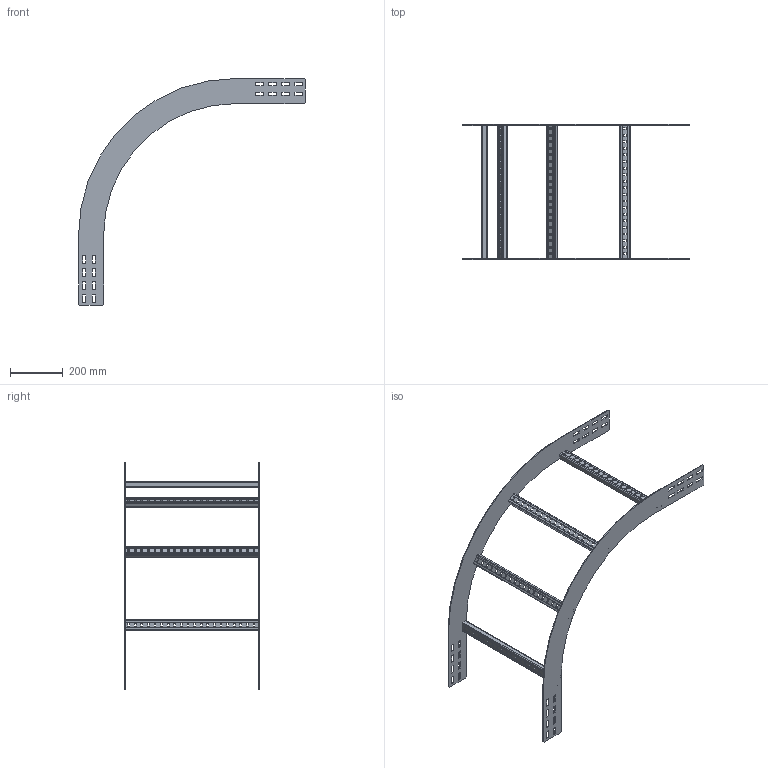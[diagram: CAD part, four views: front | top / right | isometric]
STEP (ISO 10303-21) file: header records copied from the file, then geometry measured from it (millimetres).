
FILE_DESCRIPTION(('Creo Elements/Direct Modeling STEP Export'),'2;1');
FILE_NAME('WPOR10-50-90-45.stp','2016-06-02T 9:30:10',(''),(''),'PTC Creo Elements/Direct Modeling STEP processor for AP214 (Solid Model)','PTC Creo Elements/Direct Modeling 19.0C 15-Aug-2015 (C) Parametric Technology GmbH','');
FILE_SCHEMA(('AUTOMOTIVE_DESIGN { 1 0 10303 214 1 1 1 1 }'));
Length unit declared in the file: millimetre
Products named in the file (3): WPIBG100_450.1; WPHBS50; WPOR10-50-90-45
Assembly tree (6 placements, depth 2):
  WPOR10-50-90-45
    WPHBS50  x4
    WPIBG100_450.1  x2
Bounding box: 860 x 511 x 860 mm (x, y, z)
Volume: 1053688.1 mm3; surface area: 936874.1 mm2
Topology: 6 solids, 6 shells, 636 faces, 1872 edges, 1248 vertices
Faces by surface type: plane 400, cylinder 236
Entity records: 6812 total; most frequent: CARTESIAN_POINT 1174, ORIENTED_EDGE 1164, DIRECTION 1110, EDGE_CURVE 582, VECTOR 462, LINE 462, VERTEX_POINT 388, AXIS2_PLACEMENT_3D 324
